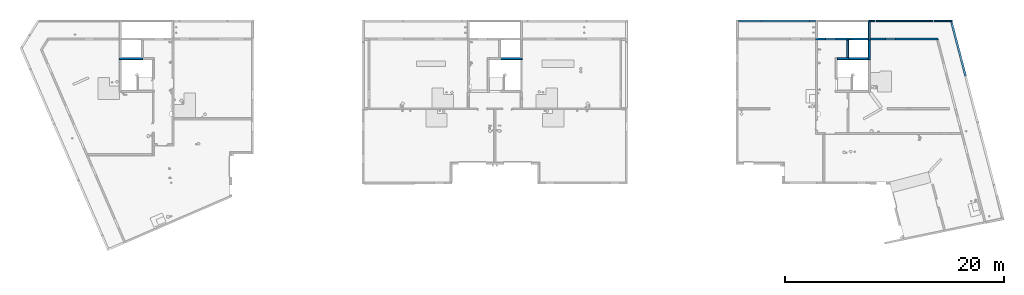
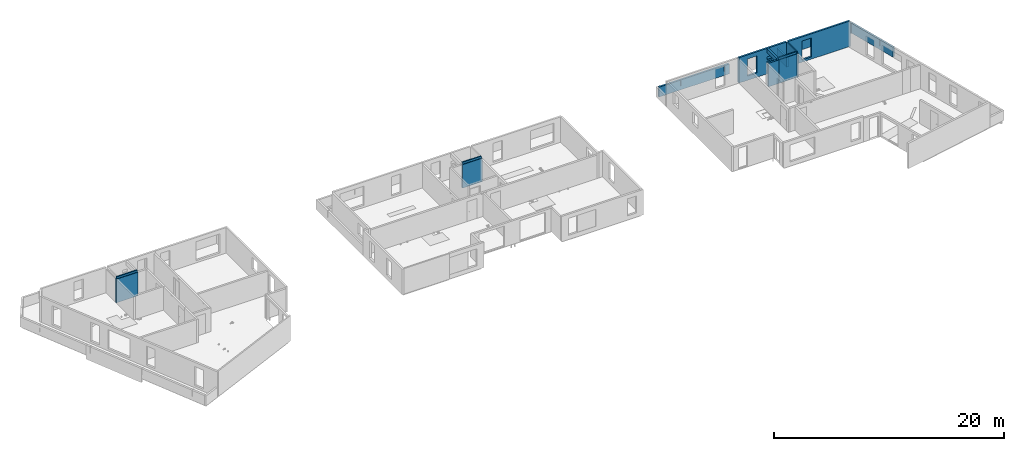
# One storey, part 17 of 28: 12 walls, 13 openings.
"""IFC2X3 building model written with IfcOpenShell, lengths in centimetres."""

from ifc_helpers import new_model, entity, si_unit, converted_unit, derived_unit, direction, frame, frame_2d, origin, place, context, subcontext, project, spatial, polyline, rectangle, outline, extrude, clip, bounded_halfspace, faceted_brep, material, layer, layer_set, layer_usage, type_object, element, save


model = new_model("IFC2X3")

# Units and contexts
model_context = context("Model", 3, precision=0.001, world=origin(), true_north=direction((6.12303176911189e-17, 1.0)))
body_context = subcontext(model_context, "Body", "Model", "MODEL_VIEW")
ifc_project = project(units=[si_unit("LENGTHUNIT", "METRE", prefix="CENTI"), si_unit("AREAUNIT", "SQUARE_METRE"), si_unit("VOLUMEUNIT", "CUBIC_METRE"), converted_unit("PLANEANGLEUNIT", "DEGREE", entity("IfcRatioMeasure", 0.0174532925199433), si_unit("PLANEANGLEUNIT", "RADIAN"), dimensions=[0, 0, 0, 0, 0, 0, 0]), si_unit("MASSUNIT", "GRAM", prefix="KILO"), derived_unit("MASSDENSITYUNIT", [(si_unit("MASSUNIT", "GRAM", prefix="KILO"), 1), (si_unit("LENGTHUNIT", "METRE"), -3)]), si_unit("TIMEUNIT", "SECOND"), si_unit("FREQUENCYUNIT", "HERTZ"), si_unit("THERMODYNAMICTEMPERATUREUNIT", "DEGREE_CELSIUS"), derived_unit("THERMALTRANSMITTANCEUNIT", [(si_unit("MASSUNIT", "GRAM", prefix="KILO"), 1), (si_unit("THERMODYNAMICTEMPERATUREUNIT", "KELVIN"), -1), (si_unit("TIMEUNIT", "SECOND"), -3)]), derived_unit("VOLUMETRICFLOWRATEUNIT", [(si_unit("LENGTHUNIT", "METRE"), 3), (si_unit("TIMEUNIT", "SECOND"), -1)]), si_unit("ELECTRICCURRENTUNIT", "AMPERE"), si_unit("ELECTRICVOLTAGEUNIT", "VOLT"), si_unit("POWERUNIT", "WATT"), si_unit("FORCEUNIT", "NEWTON"), si_unit("ILLUMINANCEUNIT", "LUX"), si_unit("LUMINOUSFLUXUNIT", "LUMEN"), si_unit("LUMINOUSINTENSITYUNIT", "CANDELA"), derived_unit("USERDEFINED", [(si_unit("MASSUNIT", "GRAM", prefix="KILO"), -1), (si_unit("LENGTHUNIT", "METRE"), -2), (si_unit("TIMEUNIT", "SECOND"), 3), (si_unit("LUMINOUSFLUXUNIT", "LUMEN"), 1)]), derived_unit("LINEARVELOCITYUNIT", [(si_unit("LENGTHUNIT", "METRE"), 1), (si_unit("TIMEUNIT", "SECOND"), -1)]), si_unit("PRESSUREUNIT", "PASCAL"), derived_unit("USERDEFINED", [(si_unit("LENGTHUNIT", "METRE"), -2), (si_unit("MASSUNIT", "GRAM", prefix="KILO"), 1), (si_unit("TIMEUNIT", "SECOND"), -2)])], contexts=[model_context])

# Site, building, storey
site_placement = place(None, origin())
site = spatial("IfcSite", under=ifc_project, at=site_placement, Name="Default", CompositionType="ELEMENT")
building_placement = place(site_placement, origin())
building = spatial("IfcBuilding", under=site, at=building_placement, Name="CAGE 03", CompositionType="ELEMENT")
storey_placement = place(building_placement, frame((0.0, 0.0, 1420.0)))
storey = spatial("IfcBuildingStorey", under=building, at=storey_placement, Name="R+5", CompositionType="ELEMENT", Elevation=1420.0)

# Walls
ifc_material_1 = material(Name="Béton, C25/30")
ifc_layer_1 = layer(ifc_material_1, 18.0)
ifc_layer_set_1 = layer_set([ifc_layer_1], Name="Mur de base:Voile BA 18")
ifc_layer_usage_1 = layer_usage(ifc_layer_set_1, "AXIS2", "NEGATIVE", 9.0)
wall_type_1 = type_object("IfcWallType", Name="Mur de base:Voile BA 18", PredefinedType="STANDARD", material=ifc_layer_set_1)
wall_1_placement = place(storey_placement, frame((11258.5216708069, 5284.66066607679, 0.0), z_axis=(0.0, 0.0, 1.0), x_axis=(-1.0, 0.0, 0.0)))
element("IfcWallStandardCase", 1, at=wall_1_placement, inside=storey, type_object=wall_type_1, material=ifc_layer_usage_1, Name="Mur de base:Voile BA 18", ObjectType="Mur de base:Voile BA 18", context=body_context, shape_type="Clipping", body=[
    clip(clip(extrude(outline(polyline([(768.155850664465, -9.0), (768.155850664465, 9.0), (750.155850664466, 9.0), (18.603690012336, 9.0), (0.0, 9.0), (4.70077462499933, -9.0), (23.3044646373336, -9.0), (768.155850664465, -9.0)])), origin(), (0.0, 0.0, 1.0), 105.0), bounded_halfspace(frame((173.155850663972, 9.0, 40.0), z_axis=(0.0, 0.0, 1.0), x_axis=(0.0, -1.0, 0.0)), False, frame((173.155850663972, 9.0, 40.0), z_axis=(0.0, 0.0, 1.0), x_axis=(0.0, -1.0, 0.0)), polyline([(0.0, 0.0), (18.0, 0.0), (18.0, 2.0), (0.0, 2.0), (0.0, 0.0)]))), bounded_halfspace(frame((702.155850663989, 9.0, 40.0), z_axis=(0.0, 0.0, 1.0), x_axis=(0.0, -1.0, 0.0)), False, frame((702.155850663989, 9.0, 40.0), z_axis=(0.0, 0.0, 1.0), x_axis=(0.0, -1.0, 0.0)), polyline([(0.0, 0.0), (18.0, 0.0), (18.0, 2.0), (0.0, 2.0), (0.0, 0.0)]))),
])
ifc_layer_usage_2 = layer_usage(ifc_layer_set_1, "AXIS2", "POSITIVE", -9.0)
wall_2_placement = place(storey_placement, frame((10499.3658201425, 5275.66066607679, 0.0), z_axis=(0.0, 0.0, 1.0), x_axis=(0.0, -1.0, 0.0)))
element("IfcWallStandardCase", 2, at=wall_2_placement, inside=storey, type_object=wall_type_1, material=ifc_layer_usage_2, Name="Mur de base:Voile BA 18", ObjectType="Mur de base:Voile BA 18", context=body_context, shape_type="SweptSolid", body=[
    extrude(rectangle(XDim=164.999999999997, YDim=17.9999999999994, at=frame_2d((82.4999999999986, 1.11022302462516e-13), x_axis=(-1.0, 0.0))), origin(), (0.0, 0.0, 1.0), 105.0),
])

# Wall, openings
ifc_layer_usage_3 = layer_usage(ifc_layer_set_1, "AXIS2", "POSITIVE", -9.0)
wall_3_placement = place(storey_placement, frame((10499.3658201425, 5119.66066607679, 0.0), z_axis=(0.0, 0.0, 1.0), x_axis=(-1.0, 0.0, 0.0)))
wall_3 = element("IfcWallStandardCase", 3, at=wall_3_placement, inside=storey, type_object=wall_type_1, material=ifc_layer_usage_3, Name="Mur de base:Voile BA 18", ObjectType="Mur de base:Voile BA 18", context=body_context, shape_type="SweptSolid", body=[
    extrude(rectangle(XDim=480.0, YDim=18.0000000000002, at=frame_2d((249.0, -5.98632254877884e-13), x_axis=(-1.0, 0.0))), origin(), (0.0, 0.0, 1.0), 270.0),
])
opening_1_placement = place(wall_3_placement, origin())
element("IfcOpeningElement", 4, at=opening_1_placement, cuts=wall_3, Name="Mur de base:Voile BA 18", ObjectType="Recess", context=body_context, shape_type="SweptSolid", body=[
    extrude(rectangle(XDim=30.0000000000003, YDim=50.0000000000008, at=frame_2d((8.66862137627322e-13, 1.08357767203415e-13), x_axis=(0.0, 1.0))), frame((179.0, 4.0, 120.0), z_axis=(0.0, 1.0, 0.0), x_axis=(1.0, 0.0, 0.0)), (0.0, 0.0, 1.0), 4.99999999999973),
])
opening_2_placement = place(wall_3_placement, origin())
element("IfcOpeningElement", 5, at=opening_2_placement, cuts=wall_3, Name="Mur de base:Voile BA 18", ObjectType="Recess", context=body_context, shape_type="SweptSolid", body=[
    extrude(rectangle(XDim=30.0000000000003, YDim=50.0000000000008, at=frame_2d((8.66862137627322e-13, -1.08357767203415e-13), x_axis=(0.0, 1.0))), frame((179.0, 4.0, 25.0), z_axis=(0.0, 1.0, 0.0), x_axis=(1.0, 0.0, 0.0)), (0.0, 0.0, 1.0), 4.99999999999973),
])
opening_3_placement = place(wall_3_placement, origin())
element("IfcOpeningElement", 6, at=opening_3_placement, cuts=wall_3, Name="Mur de base:Voile BA 18", ObjectType="Opening", context=body_context, shape_type="SweptSolid", body=[
    extrude(rectangle(XDim=227.0, YDim=17.9999999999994, at=frame_2d((0.0, -2.20268248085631e-13), x_axis=(0.0, 1.0))), frame((198.0, 9.0, 113.5), z_axis=(0.0, 1.0, 0.0), x_axis=(-1.0, 0.0, 0.0)), (0.0, 0.0, 1.0), 160.0),
])
opening_4_placement = place(wall_3_placement, origin())
element("IfcOpeningElement", 7, at=opening_4_placement, cuts=wall_3, Name="Mur de base:Voile BA 18", ObjectType="Recess", context=body_context, shape_type="SweptSolid", body=[
    extrude(rectangle(XDim=30.0000000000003, YDim=50.0000000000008, at=frame_2d((8.66862137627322e-13, 1.08357767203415e-13), x_axis=(0.0, 1.0))), frame((179.0, 4.0, 165.0), z_axis=(0.0, 1.0, 0.0), x_axis=(1.0, 0.0, 0.0)), (0.0, 0.0, 1.0), 4.99999999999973),
])
opening_5_placement = place(wall_3_placement, frame((10499.3658201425, 5119.66066607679, 0.0), z_axis=(0.0, 0.0, 1.0), x_axis=(-1.0, 0.0, 0.0)))
element("IfcOpeningElement", 8, at=opening_5_placement, cuts=wall_3, Name="Mur de base:Voile BA 18", ObjectType="Opening", context=body_context, shape_type="SweptSolid", body=[
    extrude(rectangle(XDim=181.0, YDim=95.0000000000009, at=frame_2d((8.66862137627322e-13, 1.06581410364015e-13), x_axis=(0.0, 1.0))), frame((10145.8658201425, 5263.06066607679, 135.5), z_axis=(0.0, -1.0, 0.0), x_axis=(1.0, 0.0, 0.0)), (0.0, 0.0, 1.0), 304.8),
])

# Wall, opening
ifc_layer_usage_4 = layer_usage(ifc_layer_set_1, "AXIS2", "NEGATIVE", 9.0)
wall_4_placement = place(storey_placement, frame((10301.3658201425, 5110.66066607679, 227.0), z_axis=(0.0, 0.0, 1.0), x_axis=(0.0, -1.0, 0.0)))
wall_4 = element("IfcWallStandardCase", 9, at=wall_4_placement, inside=storey, type_object=wall_type_1, material=ifc_layer_usage_4, Name="Mur de base:Voile BA 18", ObjectType="Mur de base:Voile BA 18", context=body_context, shape_type="Clipping", body=[
    clip(extrude(rectangle(XDim=172.500000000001, YDim=17.9999999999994, at=frame_2d((86.2500000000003, 0.0), x_axis=(-1.0, 0.0))), origin(), (0.0, 0.0, 1.0), 43.0000000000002), bounded_halfspace(frame((172.500000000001, -9.0, 43.0), z_axis=(-1.0, 0.0, 0.0), x_axis=(0.0, 0.0, 1.0)), True, frame((172.500000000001, -9.0, 43.0), z_axis=(-1.0, 0.0, 0.0), x_axis=(0.0, 0.0, 1.0)), polyline([(0.0, 0.0), (0.0, 18.0), (-20.0, 18.0), (-20.0, 0.0), (0.0, 0.0)]))),
])
opening_6_placement = place(wall_4_placement, frame((5110.66066607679, -10301.3658201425, -227.0), z_axis=(0.0, 0.0, 1.0), x_axis=(0.0, 1.0, 0.0)))
element("IfcOpeningElement", 10, at=opening_6_placement, cuts=wall_4, Name="Mur de base:Voile BA 18", ObjectType="Opening", context=body_context, shape_type="SweptSolid", body=[
    extrude(rectangle(XDim=227.0, YDim=160.0, at=frame_2d((0.0, -2.20268248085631e-13), x_axis=(0.0, 1.0))), frame((10157.9658201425, 5030.66066607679, 113.5), z_axis=(1.0, 0.0, 0.0), x_axis=(0.0, 1.0, 0.0)), (0.0, 0.0, 1.0), 304.8),
])

# Wall, openings
ifc_layer_usage_5 = layer_usage(ifc_layer_set_1, "AXIS2", "NEGATIVE", 9.0)
wall_5_placement = place(storey_placement, frame((11131.0782797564, 5119.66066607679, 0.0), z_axis=(0.0, 0.0, 1.0), x_axis=(-1.0, 0.0, 0.0)))
wall_5 = element("IfcWallStandardCase", 11, at=wall_5_placement, inside=storey, type_object=wall_type_1, material=ifc_layer_usage_5, Name="Mur de base:Voile BA 18", ObjectType="Mur de base:Voile BA 18", context=body_context, shape_type="SweptSolid", body=[
    extrude(outline(polyline([(622.712459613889, -9.0), (622.712459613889, 9.0), (18.6036900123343, 9.0), (0.0, 9.0), (4.7007746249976, -9.0), (622.712459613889, -9.0)])), origin(), (0.0, 0.0, 1.0), 270.0),
])
opening_7_placement = place(wall_5_placement, origin())
element("IfcOpeningElement", 12, at=opening_7_placement, cuts=wall_5, Name="Mur de base:Voile BA 18", ObjectType="Opening", context=body_context, shape_type="SweptSolid", body=[
    extrude(rectangle(XDim=227.0, YDim=17.9999999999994, at=frame_2d((0.0, -2.20268248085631e-13), x_axis=(0.0, 1.0))), frame((829.712459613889, 9.0, 113.5), z_axis=(0.0, 1.0, 0.0), x_axis=(-1.0, 0.0, 0.0)), (0.0, 0.0, 1.0), 160.0),
])
opening_8_placement = place(wall_5_placement, origin())
element("IfcOpeningElement", 13, at=opening_8_placement, cuts=wall_5, Name="Mur de base:Voile BA 18", ObjectType="Recess", context=body_context, shape_type="SweptSolid", body=[
    extrude(rectangle(XDim=30.0000000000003, YDim=50.0000000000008, at=frame_2d((8.66862137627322e-13, -1.08357767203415e-13), x_axis=(0.0, 1.0))), frame((810.712459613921, 4.0, 25.0), z_axis=(0.0, 1.0, 0.0), x_axis=(1.0, 0.0, 0.0)), (0.0, 0.0, 1.0), 4.99999999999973),
])
opening_9_placement = place(wall_5_placement, origin())
element("IfcOpeningElement", 14, at=opening_9_placement, cuts=wall_5, Name="Mur de base:Voile BA 18", ObjectType="Recess", context=body_context, shape_type="SweptSolid", body=[
    extrude(rectangle(XDim=30.0000000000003, YDim=50.0000000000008, at=frame_2d((8.66862137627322e-13, 1.08357767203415e-13), x_axis=(0.0, 1.0))), frame((810.712459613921, 4.0, 120.0), z_axis=(0.0, 1.0, 0.0), x_axis=(1.0, 0.0, 0.0)), (0.0, 0.0, 1.0), 4.99999999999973),
])
opening_10_placement = place(wall_5_placement, origin())
element("IfcOpeningElement", 15, at=opening_10_placement, cuts=wall_5, Name="Mur de base:Voile BA 18", ObjectType="Recess", context=body_context, shape_type="SweptSolid", body=[
    extrude(rectangle(XDim=30.0000000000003, YDim=50.0000000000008, at=frame_2d((8.66862137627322e-13, 1.08357767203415e-13), x_axis=(0.0, 1.0))), frame((810.712459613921, 4.0, 165.0), z_axis=(0.0, 1.0, 0.0), x_axis=(1.0, 0.0, 0.0)), (0.0, 0.0, 1.0), 4.99999999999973),
])
opening_11_placement = place(wall_5_placement, frame((11131.0782797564, 5119.66066607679, 0.0), z_axis=(0.0, 0.0, 1.0), x_axis=(-1.0, 0.0, 0.0)))
element("IfcOpeningElement", 16, at=opening_11_placement, cuts=wall_5, Name="Mur de base:Voile BA 18", ObjectType="Opening", context=body_context, shape_type="SweptSolid", body=[
    extrude(rectangle(XDim=203.0, YDim=95.0000000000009, at=frame_2d((8.66862137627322e-13, -1.06581410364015e-13), x_axis=(0.0, 1.0))), frame((10692.8658201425, 5263.06066607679, 124.5), z_axis=(0.0, -1.0, 0.0), x_axis=(1.0, 0.0, 0.0)), (0.0, 0.0, 1.0), 304.8),
])

# Walls
ifc_layer_usage_6 = layer_usage(ifc_layer_set_1, "AXIS2", "POSITIVE", -9.0)
wall_6_placement = place(storey_placement, frame((11377.6052537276, 4784.05281693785, 0.0), z_axis=(0.0, 0.0, 1.0), x_axis=(-0.25267968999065, 0.967549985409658, 0.0)))
element("IfcWallStandardCase", 17, at=wall_6_placement, inside=storey, type_object=wall_type_1, material=ifc_layer_usage_6, Name="Mur de base:Voile BA 18", ObjectType="Mur de base:Voile BA 18", context=body_context, shape_type="Clipping", body=[
    clip(extrude(outline(polyline([(505.745170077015, -9.0), (510.445944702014, 9.0), (0.0, 9.0), (0.0, -9.0), (505.745170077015, -9.0)])), origin(), (0.0, 0.0, 1.0), 105.0), bounded_halfspace(frame((162.499999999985, 9.0, 40.0), z_axis=(0.0, 0.0, 1.0), x_axis=(0.0, -1.0, 0.0)), False, frame((162.499999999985, 9.0, 40.0), z_axis=(0.0, 0.0, 1.0), x_axis=(0.0, -1.0, 0.0)), polyline([(0.0, 0.0), (18.0, 0.0), (18.0, 2.0), (0.0, 2.0), (0.0, 0.0)]))),
])
ifc_layer_usage_7 = layer_usage(ifc_layer_set_1, "AXIS2", "NEGATIVE", 9.0)
wall_7_placement = place(storey_placement, frame((10010.3658201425, 5284.66066607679, 0.0), z_axis=(0.0, 0.0, 1.0), x_axis=(-1.0, 0.0, 0.0)))
element("IfcWallStandardCase", 18, at=wall_7_placement, inside=storey, type_object=wall_type_1, material=ifc_layer_usage_7, Name="Mur de base:Voile BA 18", ObjectType="Mur de base:Voile BA 18", context=body_context, shape_type="Clipping", body=[
    clip(clip(extrude(rectangle(XDim=707.999999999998, YDim=17.9999999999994, at=frame_2d((353.999999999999, -3.12638803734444e-13), x_axis=(-1.0, 0.0))), origin(), (0.0, 0.0, 1.0), 105.0), bounded_halfspace(frame((487.0, 9.0, 40.0), z_axis=(0.0, 0.0, 1.0), x_axis=(0.0, -1.0, 0.0)), False, frame((487.0, 9.0, 40.0), z_axis=(0.0, 0.0, 1.0), x_axis=(0.0, -1.0, 0.0)), polyline([(0.0, 0.0), (18.0, 0.0), (18.0, 2.0), (0.0, 2.0), (0.0, 0.0)]))), bounded_halfspace(frame((50.0, 9.0, 40.0), z_axis=(0.0, 0.0, 1.0), x_axis=(0.0, -1.0, 0.0)), False, frame((50.0, 9.0, 40.0), z_axis=(0.0, 0.0, 1.0), x_axis=(0.0, -1.0, 0.0)), polyline([(0.0, 0.0), (18.0, 0.0), (18.0, 2.0), (0.0, 2.0), (0.0, 0.0)]))),
])
wall_type_2 = type_object("IfcWallType", Name="Mur de base:premur 18", PredefinedType="NOTDEFINED")
wall_8_placement = place(storey_placement, frame((3654.36582014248, 4941.66066607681, 0.0)))
element("IfcWall", 19, at=wall_8_placement, inside=storey, type_object=wall_type_2, Name="Mur de base:premur 18", ObjectType="Mur de base:premur 18", context=body_context, shape_type="Brep", body=[
    faceted_brep([(0.0, -9.0, 0.0), (18.0, -9.0, 0.0), (216.0, -9.0, 0.0), (216.0, -9.0, 250.0), (18.0, -9.0, 250.0), (0.0, -9.0, 250.0), (216.0, 9.0, 0.0), (213.0, 9.0, 0.0), (18.0, 9.0, 0.0), (0.0, 9.0, 0.0), (0.0, 9.0, 250.0), (5.49999999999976, 9.0, 250.0), (5.49999999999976, 9.0, 270.0), (18.0, 9.0, 270.0), (198.0, 9.0, 270.0), (216.0, 9.0, 270.0), (216.0, 9.0, 250.0), (216.0, 9.0, 227.0), (5.49999999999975, -3.50000000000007, 270.0), (216.0, -3.50000000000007, 270.0), (216.0, -3.50000000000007, 250.0), (5.49999999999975, -3.50000000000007, 250.0)], [[[0, 1, 2, 3, 4, 5]], [[6, 7, 8, 9, 10, 11, 12, 13, 14, 15, 16, 17]], [[2, 1, 0, 9, 8, 7, 6]], [[15, 14, 13, 12, 18, 19]], [[9, 0, 5, 10]], [[2, 6, 17, 16, 15, 19, 20, 3]], [[20, 21, 11, 10, 5, 4, 3]], [[21, 18, 12, 11]], [[21, 20, 19, 18]]]),
])

# Wall, opening
ifc_material_2 = material(Name="Béton, panneaux préfa 30/37")
ifc_layer_2 = layer(ifc_material_2, 5.5)
ifc_layer_3 = layer(ifc_material_1, 7.0)
ifc_layer_4 = layer(ifc_material_2, 5.5)
ifc_layer_set_2 = layer_set([ifc_layer_2, ifc_layer_3, ifc_layer_4], Name="Mur de base:premur 18")
ifc_layer_usage_8 = layer_usage(ifc_layer_set_2, "AXIS2", "NEGATIVE", 9.0)
wall_9_placement = place(storey_placement, frame((10208.3658201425, 4941.66066607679, 0.0)))
wall_9 = element("IfcWallStandardCase", 20, at=wall_9_placement, inside=storey, type_object=wall_type_2, material=ifc_layer_usage_8, Name="Mur de base:premur 18", ObjectType="Mur de base:premur 18", context=body_context, shape_type="SweptSolid", body=[
    extrude(rectangle(XDim=101.999999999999, YDim=17.9999999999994, at=frame_2d((50.9999999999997, 1.47437617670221e-13), x_axis=(-1.0, 0.0))), origin(), (0.0, 0.0, 1.0), 250.0),
])
opening_12_placement = place(wall_9_placement, origin())
element("IfcOpeningElement", 21, at=opening_12_placement, cuts=wall_9, Name="Mur de base:premur 18", ObjectType="Opening", context=body_context, shape_type="SweptSolid", body=[
    extrude(rectangle(XDim=227.0, YDim=17.9999999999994, at=frame_2d((0.0, 0.0), x_axis=(0.0, 1.0))), frame((93.0, 9.0, 113.5), z_axis=(0.0, 1.0, 0.0), x_axis=(1.0, 0.0, 0.0)), (0.0, 0.0, 1.0), 160.0),
])

# Walls
wall_10_placement = place(storey_placement, frame((10499.3658201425, 5110.66066607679, 0.0), z_axis=(0.0, 0.0, 1.0), x_axis=(0.0, -1.0, 0.0)))
element("IfcWall", 22, at=wall_10_placement, inside=storey, type_object=wall_type_2, Name="Mur de base:premur 18", ObjectType="Mur de base:premur 18", context=body_context, shape_type="Brep", body=[
    faceted_brep([(0.0, -9.0, 0.0), (160.0, -9.0, 0.0), (178.0, -9.0, 0.0), (178.0, -9.0, 250.0), (172.500000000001, -9.0, 250.0), (172.5, -9.0, 270.0), (160.0, -9.0, 270.0), (0.0, -9.0, 270.0), (178.0, 9.0, 0.0), (0.0, 9.0, 0.0), (0.0, 9.0, 250.0), (178.0, 9.0, 250.0), (0.0, 3.49999999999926, 0.0), (172.5, 3.49999999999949, 270.0), (0.0, 3.49999999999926, 270.0), (0.0, 0.0, 270.0), (0.0, 3.49999999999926, 250.0), (172.5, 3.49999999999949, 250.0)], [[[0, 1, 2, 3, 4, 5, 6, 7]], [[8, 9, 10, 11]], [[2, 1, 0, 12, 9, 8]], [[7, 6, 5, 13, 14, 15]], [[0, 7, 15, 14, 16, 10, 9, 12]], [[2, 8, 11, 3]], [[16, 17, 4, 3, 11, 10]], [[17, 13, 5, 4]], [[17, 16, 14, 13]]]),
])
wall_11_placement = place(storey_placement, frame((7133.36582014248, 4941.6606660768, 0.0)))
element("IfcWall", 23, at=wall_11_placement, inside=storey, type_object=wall_type_2, Name="Mur de base:premur 18", ObjectType="Mur de base:premur 18", context=body_context, shape_type="Brep", body=[
    faceted_brep([(0.0, -9.0, 0.0), (180.0, -9.0, 0.0), (198.0, -9.0, 0.0), (198.0, -9.0, 250.0), (180.0, -9.0, 250.0), (0.0, -9.0, 250.0), (198.0, 9.0, 0.0), (180.0, 9.0, 0.0), (0.0, 9.0, 0.0), (0.0, 9.0, 250.0), (0.0, 9.0, 270.0), (180.0, 9.0, 270.0), (192.5, 9.0, 270.0), (192.5, 9.0, 250.0), (198.0, 9.0, 250.0), (0.0, -3.4999999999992, 270.0), (192.5, -3.50000000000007, 270.0), (192.5, -3.50000000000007, 250.0), (0.0, -3.4999999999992, 250.0)], [[[0, 1, 2, 3, 4, 5]], [[6, 7, 8, 9, 10, 11, 12, 13, 14]], [[2, 1, 0, 8, 7, 6]], [[12, 11, 10, 15, 16]], [[2, 6, 14, 3]], [[13, 17, 18, 5, 4, 3, 14]], [[17, 16, 15, 18]], [[16, 17, 13, 12]], [[10, 9, 8, 0, 5, 18, 15]]]),
])

# Wall, opening
ifc_layer_usage_9 = layer_usage(ifc_layer_set_2, "AXIS2", "NEGATIVE", 9.0)
wall_12_placement = place(storey_placement, frame((10310.3658201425, 4941.66066607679, 0.0)))
wall_12 = element("IfcWallStandardCase", 24, at=wall_12_placement, inside=storey, type_object=wall_type_2, material=ifc_layer_usage_9, Name="Mur de base:premur 18", ObjectType="Mur de base:premur 18", context=body_context, shape_type="Clipping", body=[
    clip(clip(extrude(rectangle(XDim=180.000000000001, YDim=17.9999999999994, at=frame_2d((90.0000000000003, -1.73194791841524e-13), x_axis=(-1.0, 0.0))), origin(), (0.0, 0.0, 1.0), 270.0), bounded_halfspace(frame((180.0, -3.4999999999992, 250.0), z_axis=(0.0, 0.0, -1.0), x_axis=(0.0, -1.0, 0.0)), True, frame((180.0, -3.4999999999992, 250.0), z_axis=(0.0, 0.0, -1.0), x_axis=(0.0, -1.0, 0.0)), polyline([(0.0, 0.0), (5.50000000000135, 0.0), (5.50000000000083, 180.0), (0.0, 180.0), (0.0, 0.0)]))), bounded_halfspace(frame((0.0, -3.50000000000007, 250.0), z_axis=(0.0, 1.0, 0.0), x_axis=(0.0, 0.0, 1.0)), True, frame((0.0, -3.50000000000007, 250.0), z_axis=(0.0, 1.0, 0.0), x_axis=(0.0, 0.0, 1.0)), polyline([(0.0, 0.0), (20.0, 0.0), (20.0, 180.0), (0.0, 180.0), (0.0, 0.0)]))),
])
opening_13_placement = place(wall_12_placement, origin())
element("IfcOpeningElement", 25, at=opening_13_placement, cuts=wall_12, Name="Mur de base:premur 18", ObjectType="Opening", context=body_context, shape_type="SweptSolid", body=[
    extrude(rectangle(XDim=227.0, YDim=17.9999999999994, at=frame_2d((0.0, 0.0), x_axis=(0.0, 1.0))), frame((-9.0, 9.0, 113.5), z_axis=(0.0, 1.0, 0.0), x_axis=(1.0, 0.0, 0.0)), (0.0, 0.0, 1.0), 160.0),
])

save(model, "model.ifc")
